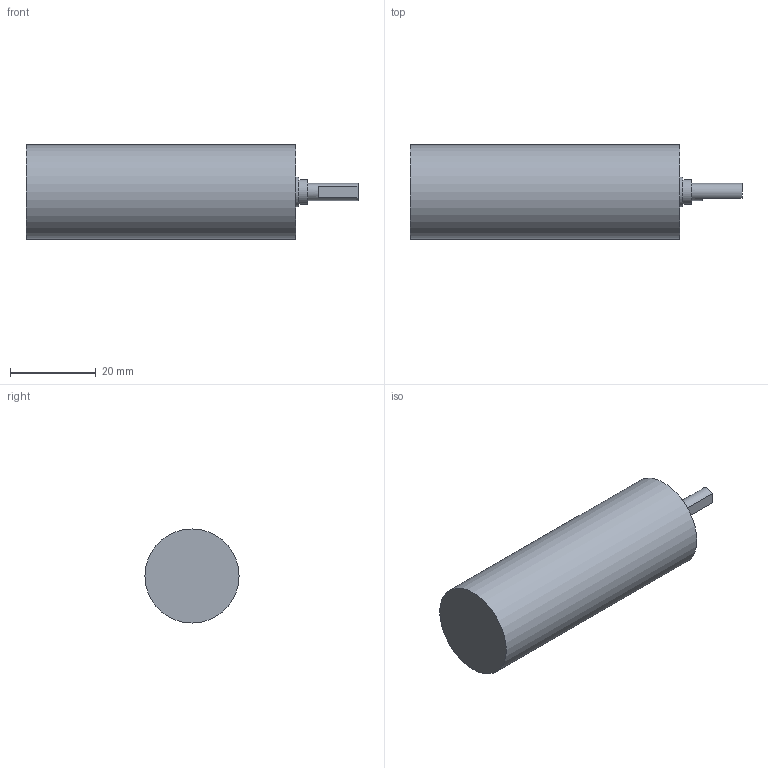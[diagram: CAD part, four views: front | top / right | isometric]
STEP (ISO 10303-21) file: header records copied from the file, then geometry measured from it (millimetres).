
FILE_DESCRIPTION(/* description */ (''),/* implementation_level */ '2;1');
FILE_NAME(/* name */ 'C:/Users/priba/Documents/Temp/Export/mrm-bldc20x40-6.5 v3.step',/* time_stamp */ '2019-09-09T12:20:13+02:00',/* author */ (''),/* organization */ (''),/* preprocessor_version */ 'ST-DEVELOPER v18',/* originating_system */ 'Autodesk Translation Framework v8.6.0.1094',/* authorisation */ '');
FILE_SCHEMA (('AUTOMOTIVE_DESIGN { 1 0 10303 214 3 1 1 }'));
Length unit declared in the file: millimetre
Products named in the file (1): mrm-bldc20x40-6.5
Bounding box: 77.6 x 22 x 22 mm (x, y, z)
Volume: 24084.9 mm3; surface area: 5456.5 mm2
Topology: 1 solids, 1 shells, 17 faces, 34 edges, 25 vertices
Faces by surface type: plane 10, cylinder 7
Full cylindrical faces by diameter (mm): 2.5 x3, 4 x1, 5.8 x1, 7 x1, 22 x1
Entity records: 500 total; most frequent: DIRECTION 93, CARTESIAN_POINT 77, ORIENTED_EDGE 68, AXIS2_PLACEMENT_3D 41, EDGE_CURVE 34, VERTEX_POINT 25, EDGE_LOOP 23, CIRCLE 23
